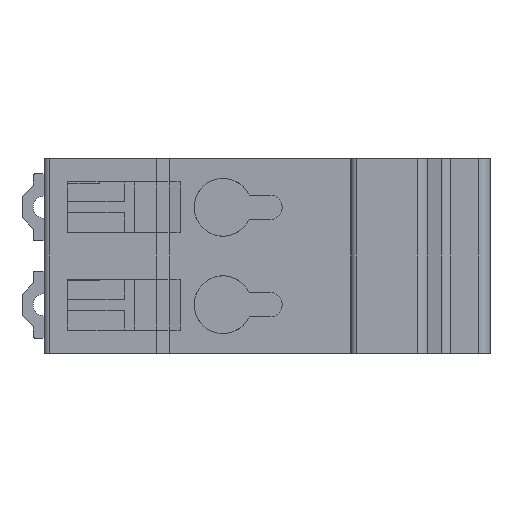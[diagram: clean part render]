
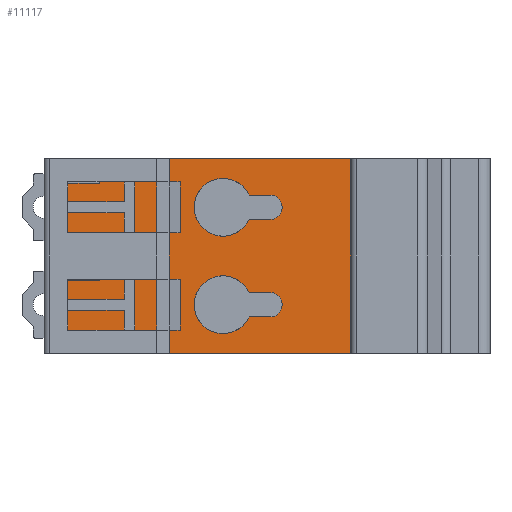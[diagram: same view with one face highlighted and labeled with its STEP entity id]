
A CAD part, front view. The second image highlights one B-rep face of the part: STEP entity #11117.
In plain terms, the highlighted planar face has unit normal (0, -1, 0).
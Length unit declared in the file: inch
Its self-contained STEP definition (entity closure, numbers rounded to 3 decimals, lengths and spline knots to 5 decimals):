
#2296=CARTESIAN_POINT('',(1.77264,0.25591,
0.34843));
#2297=DIRECTION('',(0.,-1.,0.));
#2298=DIRECTION('',(0.,0.,-1.));
#2299=AXIS2_PLACEMENT_3D('',#2296,#2297,#2298);
#2301=CARTESIAN_POINT('',(1.43701,0.25591,
0.34843));
#2302=DIRECTION('',(0.,-1.,0.));
#2303=DIRECTION('',(0.906,0.,0.424));
#2304=AXIS2_PLACEMENT_3D('',#2301,#2302,#2303);
#2306=CARTESIAN_POINT('',(1.77264,0.25591,
-0.34843));
#2307=DIRECTION('',(0.,-1.,0.));
#2308=DIRECTION('',(0.,0.,-1.));
#2309=AXIS2_PLACEMENT_3D('',#2306,#2307,#2308);
#2311=CARTESIAN_POINT('',(1.43701,0.25591,
-0.34843));
#2312=DIRECTION('',(0.,-1.,0.));
#2313=DIRECTION('',(0.906,0.,0.424));
#2314=AXIS2_PLACEMENT_3D('',#2311,#2312,#2313);
#2316=DIRECTION('',(1.,0.,0.));
#2317=VECTOR('',#2316,1.39764);
#2318=CARTESIAN_POINT('',(1.05315,0.25591,
0.69685));
#2319=LINE('',#2318,#2317);
#2320=DIRECTION('',(0.,0.,-1.));
#2321=VECTOR('',#2320,1.3937);
#2322=CARTESIAN_POINT('',(2.45079,0.25591,
0.69685));
#2323=LINE('',#2322,#2321);
#2324=DIRECTION('',(-1.,0.,0.));
#2325=VECTOR('',#2324,1.39764);
#2326=CARTESIAN_POINT('',(2.45079,0.25591,
-0.69685));
#2327=LINE('',#2326,#2325);
#2399=DIRECTION('',(-1.,0.,0.));
#2400=VECTOR('',#2399,0.14842);
#2401=CARTESIAN_POINT('',(1.77264,0.25591,
0.26083));
#2402=LINE('',#2401,#2400);
#2415=DIRECTION('',(1.,0.,0.));
#2416=VECTOR('',#2415,0.14842);
#2417=CARTESIAN_POINT('',(1.62422,0.25591,
0.43602));
#2418=LINE('',#2417,#2416);
#2494=DIRECTION('',(-1.,0.,0.));
#2495=VECTOR('',#2494,0.14842);
#2496=CARTESIAN_POINT('',(1.77264,0.25591,
-0.43602));
#2497=LINE('',#2496,#2495);
#2510=DIRECTION('',(1.,0.,0.));
#2511=VECTOR('',#2510,0.14842);
#2512=CARTESIAN_POINT('',(1.62422,0.25591,
-0.26083));
#2513=LINE('',#2512,#2511);
#2530=DIRECTION('',(0.,0.,-1.));
#2531=VECTOR('',#2530,0.33465);
#2532=CARTESIAN_POINT('',(1.05315,0.25591,
0.16732));
#2533=LINE('',#2532,#2531);
#3667=DIRECTION('',(1.,0.,0.));
#3668=VECTOR('',#3667,0.72638);
#3669=CARTESIAN_POINT('',(0.32677,0.25591,
-0.52953));
#3670=LINE('',#3669,#3668);
#3691=DIRECTION('',(0.,0.,-1.));
#3692=VECTOR('',#3691,0.35236);
#3693=CARTESIAN_POINT('',(0.32677,0.25591,
-0.17717));
#3694=LINE('',#3693,#3692);
#3699=DIRECTION('',(-1.,0.,0.));
#3700=VECTOR('',#3699,0.22805);
#3701=CARTESIAN_POINT('',(0.55482,0.25591,
-0.17717));
#3702=LINE('',#3701,#3700);
#3743=DIRECTION('',(-1.,0.,0.));
#3744=VECTOR('',#3743,0.49833);
#3745=CARTESIAN_POINT('',(1.05315,0.25591,
-0.16732));
#3746=LINE('',#3745,#3744);
#3771=DIRECTION('',(0.,0.,-1.));
#3772=VECTOR('',#3771,0.00984);
#3773=CARTESIAN_POINT('',(0.55482,0.25591,
-0.16732));
#3774=LINE('',#3773,#3772);
#4241=DIRECTION('',(0.,0.,-1.));
#4242=VECTOR('',#4241,0.16732);
#4243=CARTESIAN_POINT('',(1.05315,0.25591,
-0.52953));
#4244=LINE('',#4243,#4242);
#5051=DIRECTION('',(-1.,0.,0.));
#5052=VECTOR('',#5051,0.49833);
#5053=CARTESIAN_POINT('',(1.05315,0.25591,
0.52953));
#5054=LINE('',#5053,#5052);
#5079=DIRECTION('',(0.,0.,-1.));
#5080=VECTOR('',#5079,0.35236);
#5081=CARTESIAN_POINT('',(0.32677,0.25591,
0.51969));
#5082=LINE('',#5081,#5080);
#5087=DIRECTION('',(-1.,0.,0.));
#5088=VECTOR('',#5087,0.22805);
#5089=CARTESIAN_POINT('',(0.55482,0.25591,
0.51969));
#5090=LINE('',#5089,#5088);
#5405=DIRECTION('',(0.,0.,-1.));
#5406=VECTOR('',#5405,0.00984);
#5407=CARTESIAN_POINT('',(0.55482,0.25591,
0.52953));
#5408=LINE('',#5407,#5406);
#5497=DIRECTION('',(1.,0.,0.));
#5498=VECTOR('',#5497,0.72638);
#5499=CARTESIAN_POINT('',(0.32677,0.25591,
0.16732));
#5500=LINE('',#5499,#5498);
#5638=DIRECTION('',(0.,0.,-1.));
#5639=VECTOR('',#5638,0.16732);
#5640=CARTESIAN_POINT('',(1.05315,0.25591,
0.69685));
#5641=LINE('',#5640,#5639);
#6288=CARTESIAN_POINT('',(1.05315,0.25591,
-0.69685));
#6289=VERTEX_POINT('',#6288);
#6290=CARTESIAN_POINT('',(2.45079,0.25591,
-0.69685));
#6291=VERTEX_POINT('',#6290);
#6422=CARTESIAN_POINT('',(1.77264,0.25591,
-0.43602));
#6423=CARTESIAN_POINT('',(1.77264,0.25591,
-0.26083));
#6424=VERTEX_POINT('',#6422);
#6425=VERTEX_POINT('',#6423);
#6426=CARTESIAN_POINT('',(1.62422,0.25591,
-0.26083));
#6427=VERTEX_POINT('',#6426);
#6428=CARTESIAN_POINT('',(1.62422,0.25591,
-0.43602));
#6429=VERTEX_POINT('',#6428);
#6430=CARTESIAN_POINT('',(0.55482,0.25591,
-0.17717));
#6431=CARTESIAN_POINT('',(0.32677,0.25591,
-0.17717));
#6432=VERTEX_POINT('',#6430);
#6433=VERTEX_POINT('',#6431);
#6434=CARTESIAN_POINT('',(0.55482,0.25591,
-0.16732));
#6435=VERTEX_POINT('',#6434);
#6436=CARTESIAN_POINT('',(1.05315,0.25591,
-0.16732));
#6437=VERTEX_POINT('',#6436);
#6438=CARTESIAN_POINT('',(0.32677,0.25591,
-0.52953));
#6439=CARTESIAN_POINT('',(1.05315,0.25591,
-0.52953));
#6440=VERTEX_POINT('',#6438);
#6441=VERTEX_POINT('',#6439);
#7172=CARTESIAN_POINT('',(2.45079,0.25591,
0.69685));
#7173=VERTEX_POINT('',#7172);
#7174=CARTESIAN_POINT('',(1.05315,0.25591,
0.69685));
#7175=VERTEX_POINT('',#7174);
#7250=CARTESIAN_POINT('',(1.77264,0.25591,
0.26083));
#7251=CARTESIAN_POINT('',(1.77264,0.25591,
0.43602));
#7252=VERTEX_POINT('',#7250);
#7253=VERTEX_POINT('',#7251);
#7254=CARTESIAN_POINT('',(1.62422,0.25591,
0.43602));
#7255=VERTEX_POINT('',#7254);
#7256=CARTESIAN_POINT('',(1.62422,0.25591,
0.26083));
#7257=VERTEX_POINT('',#7256);
#7258=CARTESIAN_POINT('',(0.55482,0.25591,
0.51969));
#7259=CARTESIAN_POINT('',(0.32677,0.25591,
0.51969));
#7260=VERTEX_POINT('',#7258);
#7261=VERTEX_POINT('',#7259);
#7262=CARTESIAN_POINT('',(0.55482,0.25591,
0.52953));
#7263=VERTEX_POINT('',#7262);
#7264=CARTESIAN_POINT('',(1.05315,0.25591,
0.52953));
#7265=VERTEX_POINT('',#7264);
#7266=CARTESIAN_POINT('',(0.32677,0.25591,
0.16732));
#7267=CARTESIAN_POINT('',(1.05315,0.25591,
0.16732));
#7268=VERTEX_POINT('',#7266);
#7269=VERTEX_POINT('',#7267);
#11060=CARTESIAN_POINT('',(1.38878,0.25591,
-0.34843));
#11061=DIRECTION('',(0.,1.,0.));
#11062=DIRECTION('',(-1.,0.,0.));
#11063=AXIS2_PLACEMENT_3D('',#11060,#11061,#11062);
#11064=PLANE('',#11063);
#11066=ORIENTED_EDGE('',*,*,#11065,.F.);
#11068=ORIENTED_EDGE('',*,*,#11067,.F.);
#11070=ORIENTED_EDGE('',*,*,#11069,.F.);
#11072=ORIENTED_EDGE('',*,*,#11071,.F.);
#11074=ORIENTED_EDGE('',*,*,#11073,.F.);
#11076=ORIENTED_EDGE('',*,*,#11075,.F.);
#11078=ORIENTED_EDGE('',*,*,#11077,.F.);
#11079=ORIENTED_EDGE('',*,*,#10637,.T.);
#11080=ORIENTED_EDGE('',*,*,#11051,.T.);
#11082=ORIENTED_EDGE('',*,*,#11081,.T.);
#11084=ORIENTED_EDGE('',*,*,#11083,.F.);
#11086=ORIENTED_EDGE('',*,*,#11085,.F.);
#11088=ORIENTED_EDGE('',*,*,#11087,.F.);
#11090=ORIENTED_EDGE('',*,*,#11089,.F.);
#11092=ORIENTED_EDGE('',*,*,#11091,.F.);
#11094=ORIENTED_EDGE('',*,*,#11093,.F.);
#11095=EDGE_LOOP('',(#11066,#11068,#11070,#11072,#11074,#11076,#11078,#11079,
#11080,#11082,#11084,#11086,#11088,#11090,#11092,#11094));
#11096=FACE_OUTER_BOUND('',#11095,.F.);
#11098=ORIENTED_EDGE('',*,*,#11097,.T.);
#11100=ORIENTED_EDGE('',*,*,#11099,.F.);
#11102=ORIENTED_EDGE('',*,*,#11101,.T.);
#11104=ORIENTED_EDGE('',*,*,#11103,.F.);
#11105=EDGE_LOOP('',(#11098,#11100,#11102,#11104));
#11106=FACE_BOUND('',#11105,.F.);
#11108=ORIENTED_EDGE('',*,*,#11107,.T.);
#11110=ORIENTED_EDGE('',*,*,#11109,.F.);
#11112=ORIENTED_EDGE('',*,*,#11111,.T.);
#11114=ORIENTED_EDGE('',*,*,#11113,.F.);
#11115=EDGE_LOOP('',(#11108,#11110,#11112,#11114));
#11116=FACE_BOUND('',#11115,.F.);
#11117=ADVANCED_FACE('',(#11096,#11106,#11116),#11064,.F.);
#2300=CIRCLE('',#2299,0.0876);
#2305=CIRCLE('',#2304,0.20669);
#2310=CIRCLE('',#2309,0.0876);
#2315=CIRCLE('',#2314,0.20669);
#10637=EDGE_CURVE('',#7175,#7173,#2319,.T.);
#11051=EDGE_CURVE('',#7173,#6291,#2323,.T.);
#11065=EDGE_CURVE('',#7269,#6437,#2533,.T.);
#11067=EDGE_CURVE('',#7268,#7269,#5500,.T.);
#11069=EDGE_CURVE('',#7261,#7268,#5082,.T.);
#11071=EDGE_CURVE('',#7260,#7261,#5090,.T.);
#11073=EDGE_CURVE('',#7263,#7260,#5408,.T.);
#11075=EDGE_CURVE('',#7265,#7263,#5054,.T.);
#11077=EDGE_CURVE('',#7175,#7265,#5641,.T.);
#11081=EDGE_CURVE('',#6291,#6289,#2327,.T.);
#11083=EDGE_CURVE('',#6441,#6289,#4244,.T.);
#11085=EDGE_CURVE('',#6440,#6441,#3670,.T.);
#11087=EDGE_CURVE('',#6433,#6440,#3694,.T.);
#11089=EDGE_CURVE('',#6432,#6433,#3702,.T.);
#11091=EDGE_CURVE('',#6435,#6432,#3774,.T.);
#11093=EDGE_CURVE('',#6437,#6435,#3746,.T.);
#11097=EDGE_CURVE('',#6424,#6425,#2310,.T.);
#11099=EDGE_CURVE('',#6427,#6425,#2513,.T.);
#11101=EDGE_CURVE('',#6427,#6429,#2315,.T.);
#11103=EDGE_CURVE('',#6424,#6429,#2497,.T.);
#11107=EDGE_CURVE('',#7252,#7253,#2300,.T.);
#11109=EDGE_CURVE('',#7255,#7253,#2418,.T.);
#11111=EDGE_CURVE('',#7255,#7257,#2305,.T.);
#11113=EDGE_CURVE('',#7252,#7257,#2402,.T.);
